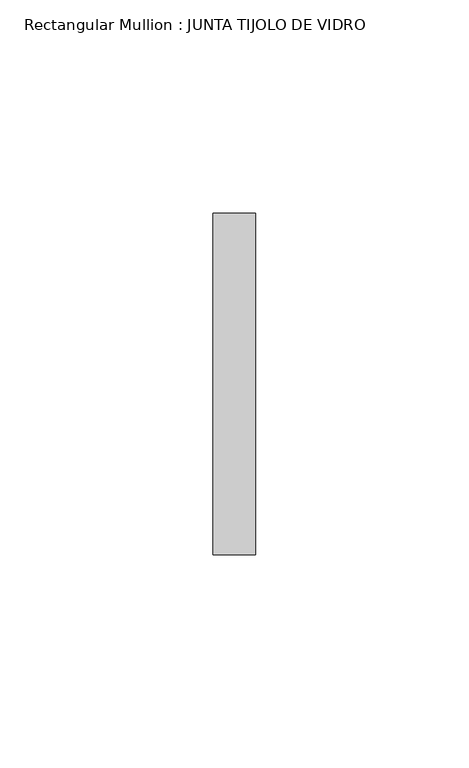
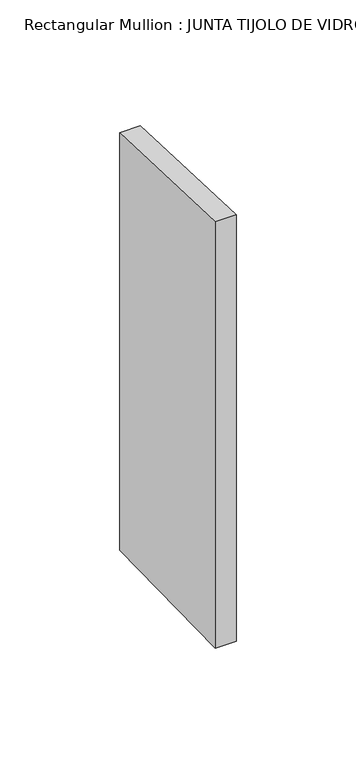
"""IFC4 building model written with IfcOpenShell, lengths in millimetres: member geometry, Rectangular Mullion : JUNTA TIJOLO DE VIDRO."""

import ifcopenshell
import ifcopenshell.guid

model = None  # the IFC model being written
_history = None  # IfcOwnerHistory: only IFC2X3 demands one
_inside = {}  # id of a spatial element -> (the spatial element, [elements in it])
_under = {}  # id of a project, library or spatial element -> (it, [spatial elements below it])
_declared = {}  # id of a project -> (the project, [libraries it declares])
_typed = {}  # id of a type object -> (the type object, [elements of that type])
_made_of = {}  # id of a material, layer set ... -> (it, [elements and type objects made of it])


def new_model(schema):
    """Start an empty IFC model of exactly this schema.

    Asked for "IFC4X3", IfcOpenShell would pick the latest addendum, in which some entities
    have other attributes; the version numbers below select the first issue.
    IFC2X3 requires an IfcOwnerHistory on every rooted entity: one is made here for all.
    """
    global model, _history
    if schema == "IFC4X3":
        model = ifcopenshell.file(schema_version=(4, 3, 0, 0))
    else:
        model = ifcopenshell.file(schema=schema)
    _inside.clear()
    _under.clear()
    _declared.clear()
    _typed.clear()
    _made_of.clear()
    _history = None
    if model.schema == "IFC2X3":
        org = make("IfcOrganization", Name="unknown")
        user = make(
            "IfcPersonAndOrganization",
            ThePerson=make("IfcPerson", FamilyName="unknown"),
            TheOrganization=org,
        )
        app = make(
            "IfcApplication",
            ApplicationDeveloper=org,
            Version="unknown",
            ApplicationFullName="unknown",
            ApplicationIdentifier="unknown",
        )
        _history = make(
            "IfcOwnerHistory",
            OwningUser=user,
            OwningApplication=app,
            ChangeAction="ADDED",
            CreationDate=0,
        )
    return model


def make(cls, **values):
    """One entity of the class cls with the attributes given. An attribute that is None is left unset."""
    return model.create_entity(
        cls, **{name: value for name, value in values.items() if value is not None}
    )


def rooted(cls, **values):
    """An entity with a GlobalId (a new one), such as an element, a storey or a relation."""
    return make(cls, GlobalId=ifcopenshell.guid.new(), OwnerHistory=_history, **values)


def si_unit(unit_type, name, prefix=None):
    """IfcSIUnit, for example si_unit("LENGTHUNIT", "METRE", prefix="MILLI")."""
    return make("IfcSIUnit", UnitType=unit_type, Prefix=prefix, Name=name)


def assignment(units):
    """IfcUnitAssignment: the units of a project."""
    return None if units is None else make("IfcUnitAssignment", Units=units)


def point(xyz):
    """IfcCartesianPoint."""
    return None if xyz is None else make("IfcCartesianPoint", Coordinates=xyz)


def direction(xyz):
    """IfcDirection."""
    return None if xyz is None else make("IfcDirection", DirectionRatios=xyz)


def frame(location, z_axis=None, x_axis=None):
    """IfcAxis2Placement3D, a coordinate frame: its origin and axes. An axis left out is left unset."""
    return make(
        "IfcAxis2Placement3D",
        Location=point(location),
        Axis=direction(z_axis),
        RefDirection=direction(x_axis),
    )


def origin():
    """The frame at (0, 0, 0) with its axes left unset."""
    return frame((0.0, 0.0, 0.0))


def place(relative_to, where):
    """IfcLocalPlacement: puts the frame where relative to a parent placement (None: the world)."""
    return make(
        "IfcLocalPlacement", PlacementRelTo=relative_to, RelativePlacement=where
    )


def context(
    kind, dimensions, precision=None, world=None, true_north=None, identifier=None
):
    """IfcGeometricRepresentationContext, for example the 3D "Model" context."""
    return make(
        "IfcGeometricRepresentationContext",
        ContextIdentifier=identifier,
        ContextType=kind,
        CoordinateSpaceDimension=dimensions,
        Precision=precision,
        WorldCoordinateSystem=world,
        TrueNorth=true_north,
    )


def project(units=None, contexts=None):
    """IfcProject with its units and contexts."""
    return rooted(
        "IfcProject",
        Name="project",
        RepresentationContexts=contexts,
        UnitsInContext=assignment(units),
    )


def spatial(cls, under=None, at=None, **own):
    """A site, building, storey or space (cls), placed at a placement, below another one or the project."""
    s = rooted(cls, ObjectPlacement=at, **own)
    if under is not None:
        _under.setdefault(under.id(), (under, []))[1].append(s)
    return s


def polyline(points):
    """IfcPolyline through the points."""
    return make("IfcPolyline", Points=[point(p) for p in points])


def outline(outer, holes=None, kind="AREA"):
    """IfcArbitraryClosedProfileDef: a profile drawn as a closed curve; with holes, ...WithVoids."""
    if holes is None:
        return make("IfcArbitraryClosedProfileDef", ProfileType=kind, OuterCurve=outer)
    return make(
        "IfcArbitraryProfileDefWithVoids",
        ProfileType=kind,
        OuterCurve=outer,
        InnerCurves=holes,
    )


def extrude(swept, where, along, depth):
    """IfcExtrudedAreaSolid: the profile swept, set in the frame where, extruded along a direction by depth."""
    return make(
        "IfcExtrudedAreaSolid",
        SweptArea=swept,
        Position=where,
        ExtrudedDirection=direction(along),
        Depth=depth,
    )


def shape(context_of_items, identifier, shape_type, items):
    """IfcShapeRepresentation: the items that make up one representation, for example the "Body"."""
    return make(
        "IfcShapeRepresentation",
        ContextOfItems=context_of_items,
        RepresentationIdentifier=identifier,
        RepresentationType=shape_type,
        Items=items,
    )


def source(mapping_origin, context_of_items, identifier, shape_type, items):
    """IfcRepresentationMap: a shape defined once, which mapped items show again and again."""
    return make(
        "IfcRepresentationMap",
        MappingOrigin=mapping_origin,
        MappedRepresentation=shape(context_of_items, identifier, shape_type, items),
    )


def transform(
    local_origin,
    x_axis=None,
    y_axis=None,
    z_axis=None,
    scale=None,
    scale2=None,
    scale3=None,
    uniform=True,
):
    """IfcCartesianTransformationOperator3D, or its non-uniform kind. x_axis, y_axis, z_axis: its Axis1, 2, 3."""
    if uniform:
        return make(
            "IfcCartesianTransformationOperator3D",
            Axis1=direction(x_axis),
            Axis2=direction(y_axis),
            LocalOrigin=point(local_origin),
            Scale=scale,
            Axis3=direction(z_axis),
        )
    return make(
        "IfcCartesianTransformationOperator3DnonUniform",
        Axis1=direction(x_axis),
        Axis2=direction(y_axis),
        LocalOrigin=point(local_origin),
        Scale=scale,
        Axis3=direction(z_axis),
        Scale2=scale2,
        Scale3=scale3,
    )


def mapped(mapping_source, mapping_target):
    """IfcMappedItem: shows the shape of a source again, moved by a transform."""
    return make(
        "IfcMappedItem", MappingSource=mapping_source, MappingTarget=mapping_target
    )


def made_of(thing, what):
    """Note that an element or type object is made of a material, layer set ...; save() writes the relation."""
    if what is not None:
        _made_of.setdefault(what.id(), (what, []))[1].append(thing)
    return thing


def element(
    cls,
    number,
    at=None,
    inside=None,
    cuts=None,
    type_object=None,
    material=None,
    context=None,
    identifier="Body",
    shape_type=None,
    held_by="IfcProductDefinitionShape",
    body=None,
    shapes=None,
    **own,
):
    """One element of the class cls, such as IfcWall. Its Tag is "e" and its number.

    at: its placement. inside: the storey or other place that contains it. cuts: it is an
    opening in that element (IfcRelVoidsElement). A single representation is given by context,
    identifier, shape_type and body (its items); several are given by shapes. held_by: the class
    of the entity that holds the representations. save() writes the other relations.
    """
    e = rooted(cls, Tag="e%d" % number, ObjectPlacement=at, **own)
    if body is not None:
        shapes = [shape(context, identifier, shape_type, body)]
    if shapes is not None:
        e.Representation = make(held_by, Representations=shapes)
    if inside is not None:
        _inside.setdefault(inside.id(), (inside, []))[1].append(e)
    if cuts is not None:
        rooted(
            "IfcRelVoidsElement", RelatingBuildingElement=cuts, RelatedOpeningElement=e
        )
    if type_object is not None:
        _typed.setdefault(type_object.id(), (type_object, []))[1].append(e)
    return made_of(e, material)


def aggregate(whole, parts):
    """IfcRelAggregates: a whole, such as a stair, and the parts it consists of."""
    return rooted("IfcRelAggregates", RelatingObject=whole, RelatedObjects=parts)


def save(model, path):
    """Write the relations noted so far, then the file.

    IfcRelAggregates (storeys below a building ...), IfcRelContainedInSpatialStructure (elements
    in a storey), IfcRelDefinesByType, IfcRelAssociatesMaterial and IfcRelDeclares: one each for
    every whole, place, type object, material and project.
    """
    for whole, parts in _under.values():
        aggregate(whole, parts)
    for where, things in _inside.values():
        rooted(
            "IfcRelContainedInSpatialStructure",
            RelatedElements=things,
            RelatingStructure=where,
        )
    for kind, things in _typed.values():
        rooted("IfcRelDefinesByType", RelatedObjects=things, RelatingType=kind)
    for what, things in _made_of.values():
        rooted("IfcRelAssociatesMaterial", RelatedObjects=things, RelatingMaterial=what)
    for by, libraries in _declared.values():
        rooted("IfcRelDeclares", RelatingContext=by, RelatedDefinitions=libraries)
    model.write(path)


def rectangular_mullion_junta_tijolo_de_vidro_4ff6911c(model_context):
    return source(origin(), model_context, "Body", "SweptSolid", [
        extrude(outline(polyline([(-40.0, 1.5330759), (40.0, -1.5330759), (40.0, -214.5494255), (-40.0, -216.0643357), (-40.0, 1.5330759)])), frame((-10.0, 0.0, 0.0), z_axis=(1.0, 0.0, 0.0), x_axis=(0.0, 1.0, 0.0)), (0.0, 0.0, 1.0), 10.0),
    ])


if __name__ == "__main__":
    model = new_model("IFC4")
    model_context = context("Model", 3, world=origin())
    ifc_project = project(units=[si_unit("LENGTHUNIT", "METRE", prefix="MILLI")], contexts=[model_context])
    site = spatial("IfcSite", under=ifc_project)
    building = spatial("IfcBuilding", under=site)
    placement = place(None, origin())
    rectangular_mullion_junta_tijolo_de_vidro_shape = rectangular_mullion_junta_tijolo_de_vidro_4ff6911c(model_context)
    element("IfcMember", 1, ObjectType="Rectangular Mullion : JUNTA TIJOLO DE VIDRO", at=placement, inside=building, context=model_context, shape_type="MappedRepresentation", body=[
        mapped(rectangular_mullion_junta_tijolo_de_vidro_shape, transform((0.0, 0.0, 0.0), x_axis=(1.0, 0.0, 0.0), y_axis=(0.0, 1.0, 0.0), z_axis=(0.0, 0.0, 1.0))),
    ])
    save(model, "model.ifc")
